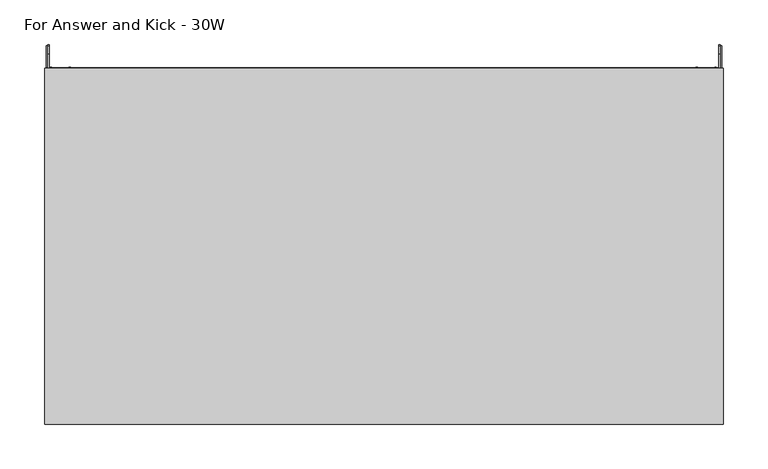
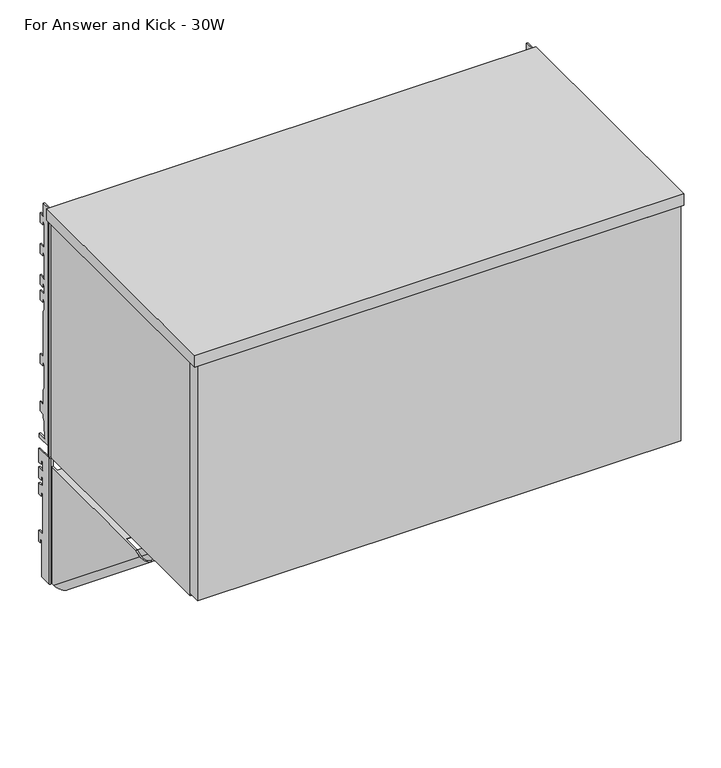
"""IFC4 building model written with IfcOpenShell, lengths in millimetres: furniture geometry, Steelcase - Universal Storage - In the Case Bin - Flat Front : For Answer and Kick - 30W."""

from ifc_helpers import new_model, si_unit, point, frame, frame_2d, origin, place, context, project, spatial, polyline, circle_curve, ellipse_curve, trimmed, segment, composite_curve, outline, extrude, faceted_brep, source, transform, mapped, element, save
from ifc_brep_helpers import plane_surface, cylinder_surface, revolved_surface, advanced_brep


def for_answer_and_kick_30w_72016e20(model_context):
    return source(origin(), model_context, "Body", "SolidModel", [
        advanced_brep(
        [(4.0894, 24.9864881, 1247.9655), (4.0894, 1.1327479, 1247.9655), (4.0894, 1.1203386, 1040.9809), (4.0894, 17.3410881, 1040.9809), (4.0894, 17.3410881, 1101.1280822), (4.0894, 21.4050888, 1101.1280822), (4.0894, 21.4050888, 1094.7781064), (4.0894, 24.9864881, 1094.7781064), (4.0894, 24.9864881, 1113.0407271), (4.0894, 14.7756879, 1113.0407271), (4.0894, 14.7756879, 1179.6141345), (4.0894, 18.8396885, 1179.6141345), (4.0894, 18.8396885, 1173.264086), (4.0894, 24.9864881, 1173.264086), (4.0894, 24.9864881, 1191.5267068), (4.0894, 14.7756879, 1191.5267068), (4.0894, 14.7756879, 1205.7761277), (4.0894, 18.8396885, 1205.7761277), (4.0894, 18.8396885, 1199.4260793), (4.0894, 24.9864881, 1199.4260793), (4.0894, 24.9864881, 1217.6887), (4.0894, 14.7756879, 1217.6887), (4.0894, 14.7756879, 1231.9381209), (4.0894, 18.8396885, 1231.9381209), (4.0894, 18.8396885, 1225.5880725), (4.0894, 24.9864881, 1225.5880725), (2.1844, 24.9864881, 1247.9655), (2.1844, 24.9864881, 1225.5880725), (2.1844, 18.8396885, 1225.5880725), (2.1844, 18.8396885, 1231.9381209), (2.1844, 14.7756879, 1231.9381209), (2.1844, 14.7756879, 1217.6887), (2.1844, 24.9864881, 1217.6887), (2.1844, 24.9864881, 1199.4260793), (2.1844, 18.8396885, 1199.4260793), (2.1844, 18.8396885, 1205.7761277), (2.1844, 14.7756879, 1205.7761277), (2.1844, 14.7756879, 1191.5267068), (2.1844, 24.9864881, 1191.5267068), (2.1844, 24.9864881, 1173.264086), (2.1844, 18.8396885, 1173.264086), (2.1844, 18.8396885, 1179.6141345), (2.1844, 14.7756879, 1179.6141345), (2.1844, 14.7756879, 1113.0407271), (2.1844, 24.9864881, 1113.0407271), (2.1844, 24.9864881, 1094.7781064), (2.1844, 21.4050888, 1094.7781064), (2.1844, 21.4050888, 1101.1280822), (2.1844, 17.3410881, 1101.1280822), (2.1844, 17.3410881, 1040.9809), (2.1844, -0.7757522, 1040.9809), (2.1844, -0.7757522, 1247.9655), (4.4891598, -3.080512, 1247.9655), (8.1026, -3.080512, 1247.9655), (8.1026, -1.7838863, 1247.9655), (7.4942256, -1.175512, 1247.9655), (6.3852506, -1.175512, 1247.9655), (6.3852506, -1.175512, 1040.9809), (7.4942256, -1.175512, 1040.9809), (8.1026, -1.7838863, 1040.9809), (8.1026, -3.080512, 1040.9809), (4.4891598, -3.080512, 1040.9809)],
        [
            (0, 1),
            (1, 2),
            (2, 3),
            (3, 4),
            (4, 5),
            (5, 6),
            (6, 7),
            (7, 8),
            (8, 9),
            (9, 10),
            (10, 11),
            (11, 12),
            (12, 13),
            (13, 14),
            (14, 15),
            (15, 16),
            (16, 17),
            (17, 18),
            (18, 19),
            (19, 20),
            (20, 21),
            (21, 22),
            (22, 23),
            (23, 24),
            (24, 25),
            (25, 0),
            (26, 27),
            (27, 28),
            (28, 29),
            (29, 30),
            (30, 31),
            (31, 32),
            (32, 33),
            (33, 34),
            (34, 35),
            (35, 36),
            (36, 37),
            (37, 38),
            (38, 39),
            (39, 40),
            (40, 41),
            (41, 42),
            (42, 43),
            (43, 44),
            (44, 45),
            (45, 46),
            (46, 47),
            (47, 48),
            (48, 49),
            (49, 50),
            (50, 51),
            (51, 26),
            (0, 26),
            (51, 52, circle_curve(frame((4.4891598, -0.7757522, 1247.9655), z_axis=(0.0, 0.0, 1.0), x_axis=(1.0, 0.0, 0.0)), 2.3047598)),
            (52, 53),
            (53, 54),
            (54, 55, circle_curve(frame((7.4942256, -1.7838863, 1247.9655), z_axis=(0.0, 0.0, 1.0), x_axis=(1.0, 0.0, 0.0)), 0.6083744)),
            (55, 56),
            (56, 1, circle_curve(frame((6.3852506, 1.1203386, 1247.9655), z_axis=(0.0, 0.0, -1.0), x_axis=(1.0, 0.0, 0.0)), 2.2958506)),
            (2, 57, circle_curve(frame((6.3852506, 1.1203386, 1040.9809), z_axis=(0.0, 0.0, 1.0), x_axis=(1.0, 0.0, 0.0)), 2.2958506)),
            (57, 58),
            (58, 59, circle_curve(frame((7.4942256, -1.7838863, 1040.9809), z_axis=(0.0, 0.0, -1.0), x_axis=(1.0, 0.0, 0.0)), 0.6083744)),
            (59, 60),
            (60, 61),
            (61, 50, circle_curve(frame((4.4891598, -0.7757522, 1040.9809), z_axis=(0.0, 0.0, -1.0), x_axis=(1.0, 0.0, 0.0)), 2.3047598)),
            (49, 3),
            (48, 4),
            (47, 5),
            (46, 6),
            (45, 7),
            (44, 8),
            (43, 9),
            (42, 10),
            (41, 11),
            (40, 12),
            (39, 13),
            (38, 14),
            (37, 15),
            (36, 16),
            (35, 17),
            (34, 18),
            (33, 19),
            (32, 20),
            (31, 21),
            (30, 22),
            (29, 23),
            (28, 24),
            (27, 25),
            (61, 52),
            (60, 53),
            (59, 54),
            (58, 55),
            (57, 56),
        ],
        [
            plane_surface(frame((4.0894, 1.241405, 1247.9655), z_axis=(1.0, 0.0, 0.0), x_axis=(0.0, -1.0, 0.0))),
            plane_surface(frame((2.1844, 1.241405, 1247.9655), z_axis=(-1.0, 0.0, 0.0), x_axis=(0.0, 1.0, 0.0))),
            plane_surface(frame((4.0894, 24.9864881, 1247.9655), z_axis=(0.0, 0.0, 1.0), x_axis=(-1.0, 0.0, 0.0))),
            plane_surface(frame((4.0894, 1.1327479, 1040.9809), z_axis=(0.0, 0.0, -1.0), x_axis=(-1.0, 0.0, 0.0))),
            plane_surface(frame((4.0894, 17.3410881, 1040.9809), z_axis=(0.0, 1.0, 0.0), x_axis=(-1.0, 0.0, 0.0))),
            plane_surface(frame((4.0894, 17.3410881, 1101.1280822), z_axis=(0.0, 0.0, -1.0), x_axis=(-1.0, 0.0, 0.0))),
            plane_surface(frame((4.0894, 21.4050888, 1101.1280822), z_axis=(0.0, -1.0, 0.0), x_axis=(-1.0, 0.0, 0.0))),
            plane_surface(frame((4.0894, 21.4050888, 1094.7781064), z_axis=(0.0, 0.0, -1.0), x_axis=(-1.0, 0.0, 0.0))),
            plane_surface(frame((4.0894, 24.9864881, 1094.7781064), z_axis=(0.0, 1.0, 0.0), x_axis=(-1.0, 0.0, 0.0))),
            plane_surface(frame((4.0894, 24.9864881, 1113.0407271), z_axis=(0.0, 0.0, 1.0), x_axis=(-1.0, 0.0, 0.0))),
            plane_surface(frame((4.0894, 14.7756879, 1113.0407271), z_axis=(0.0, 1.0, 0.0), x_axis=(-1.0, 0.0, 0.0))),
            plane_surface(frame((4.0894, 14.7756879, 1179.6141345), z_axis=(0.0, 0.0, -1.0), x_axis=(-1.0, 0.0, 0.0))),
            plane_surface(frame((4.0894, 18.8396885, 1179.6141345), z_axis=(0.0, -1.0, 0.0), x_axis=(-1.0, 0.0, 0.0))),
            plane_surface(frame((4.0894, 18.8396885, 1173.264086), z_axis=(0.0, 0.0, -1.0), x_axis=(-1.0, 0.0, 0.0))),
            plane_surface(frame((4.0894, 24.9864881, 1173.264086), z_axis=(0.0, 1.0, 0.0), x_axis=(-1.0, 0.0, 0.0))),
            plane_surface(frame((4.0894, 24.9864881, 1191.5267068), z_axis=(0.0, 0.0, 1.0), x_axis=(-1.0, 0.0, 0.0))),
            plane_surface(frame((4.0894, 14.7756879, 1191.5267068), z_axis=(0.0, 1.0, 0.0), x_axis=(-1.0, 0.0, 0.0))),
            plane_surface(frame((4.0894, 14.7756879, 1205.7761277), z_axis=(0.0, 0.0, -1.0), x_axis=(-1.0, 0.0, 0.0))),
            plane_surface(frame((4.0894, 18.8396885, 1205.7761277), z_axis=(0.0, -1.0, 0.0), x_axis=(-1.0, 0.0, 0.0))),
            plane_surface(frame((4.0894, 18.8396885, 1199.4260793), z_axis=(0.0, 0.0, -1.0), x_axis=(-1.0, 0.0, 0.0))),
            plane_surface(frame((4.0894, 24.9864881, 1199.4260793), z_axis=(0.0, 1.0, 0.0), x_axis=(-1.0, 0.0, 0.0))),
            plane_surface(frame((4.0894, 24.9864881, 1217.6887), z_axis=(0.0, 0.0, 1.0), x_axis=(-1.0, 0.0, 0.0))),
            plane_surface(frame((4.0894, 14.7756879, 1217.6887), z_axis=(0.0, 1.0, 0.0), x_axis=(-1.0, 0.0, 0.0))),
            plane_surface(frame((4.0894, 14.7756879, 1231.9381209), z_axis=(0.0, 0.0, -1.0), x_axis=(-1.0, 0.0, 0.0))),
            plane_surface(frame((4.0894, 18.8396885, 1231.9381209), z_axis=(0.0, -1.0, 0.0), x_axis=(-1.0, 0.0, 0.0))),
            plane_surface(frame((4.0894, 18.8396885, 1225.5880725), z_axis=(0.0, 0.0, -1.0), x_axis=(-1.0, 0.0, 0.0))),
            plane_surface(frame((4.0894, 24.9864881, 1225.5880725), z_axis=(0.0, 1.0, 0.0), x_axis=(-1.0, 0.0, 0.0))),
            cylinder_surface(frame((4.4891598, -0.7757522, 1040.9809), z_axis=(0.0, 0.0, 1.0), x_axis=(1.0, 0.0, 0.0)), 2.3047598),
            plane_surface(frame((4.4891598, -3.080512, 1247.9655), z_axis=(0.0, -1.0, 0.0), x_axis=(0.0, 0.0, -1.0))),
            plane_surface(frame((8.1026, -3.080512, 1247.9655), z_axis=(1.0, 0.0, 0.0), x_axis=(0.0, 0.0, -1.0))),
            cylinder_surface(frame((7.4942256, -1.7838863, 1040.9809), z_axis=(0.0, 0.0, 1.0), x_axis=(1.0, 0.0, 0.0)), 0.6083744),
            plane_surface(frame((7.4942256, -1.175512, 1247.9655), z_axis=(0.0, 1.0, 0.0), x_axis=(0.0, 0.0, -1.0))),
            revolved_surface(polyline([(8.6811012, 1.1203386, 1040.9809), (8.6811012, 1.1203386, 1247.9655)]), (6.3852506, 1.1203386, 1040.9809), (0.0, 0.0, -1.0)),
        ],
        [
            (0, [[1, 2, 3, 4, 5, 6, 7, 8, 9, 10, 11, 12, 13, 14, 15, 16, 17, 18, 19, 20, 21, 22, 23, 24, 25, 26]]),
            (1, [[27, 28, 29, 30, 31, 32, 33, 34, 35, 36, 37, 38, 39, 40, 41, 42, 43, 44, 45, 46, 47, 48, 49, 50, 51, 52]]),
            (2, [[-1, 53, -52, 54, 55, 56, 57, 58, 59]]),
            (3, [[-3, 60, 61, 62, 63, 64, 65, -50, 66]]),
            (4, [[-4, -66, -49, 67]]),
            (5, [[-5, -67, -48, 68]]),
            (6, [[-6, -68, -47, 69]]),
            (7, [[-7, -69, -46, 70]]),
            (8, [[-8, -70, -45, 71]]),
            (9, [[-9, -71, -44, 72]]),
            (10, [[-10, -72, -43, 73]]),
            (11, [[-11, -73, -42, 74]]),
            (12, [[-12, -74, -41, 75]]),
            (13, [[-13, -75, -40, 76]]),
            (14, [[-14, -76, -39, 77]]),
            (15, [[-15, -77, -38, 78]]),
            (16, [[-16, -78, -37, 79]]),
            (17, [[-17, -79, -36, 80]]),
            (18, [[-18, -80, -35, 81]]),
            (19, [[-19, -81, -34, 82]]),
            (20, [[-20, -82, -33, 83]]),
            (21, [[-21, -83, -32, 84]]),
            (22, [[-22, -84, -31, 85]]),
            (23, [[-23, -85, -30, 86]]),
            (24, [[-24, -86, -29, 87]]),
            (25, [[-25, -87, -28, 88]]),
            (26, [[-26, -88, -27, -53]]),
            (27, [[-54, -51, -65, 89]]),
            (28, [[-55, -89, -64, 90]]),
            (29, [[-56, -90, -63, 91]]),
            (30, [[-57, -91, -62, 92]]),
            (31, [[-58, -92, -61, 93]]),
            (32, [[-59, -93, -60, -2]]),
        ],
    ),
        advanced_brep(
        [(757.9106, 24.9864881, 1247.9655), (757.9106, 24.9864881, 1225.5880725), (757.9106, 18.8396885, 1225.5880725), (757.9106, 18.8396885, 1231.9381209), (757.9106, 14.7756879, 1231.9381209), (757.9106, 14.7756879, 1217.6887), (757.9106, 24.9864881, 1217.6887), (757.9106, 24.9864881, 1199.4260793), (757.9106, 18.8396885, 1199.4260793), (757.9106, 18.8396885, 1205.7761277), (757.9106, 14.7756879, 1205.7761277), (757.9106, 14.7756879, 1191.5267068), (757.9106, 24.9864881, 1191.5267068), (757.9106, 24.9864881, 1173.264086), (757.9106, 18.8396885, 1173.264086), (757.9106, 18.8396885, 1179.6141345), (757.9106, 14.7756879, 1179.6141345), (757.9106, 14.7756879, 1113.0407271), (757.9106, 24.9864881, 1113.0407271), (757.9106, 24.9864881, 1094.7781064), (757.9106, 21.4050888, 1094.7781064), (757.9106, 21.4050888, 1101.1280822), (757.9106, 17.3410881, 1101.1280822), (757.9106, 17.3410881, 1040.9809), (757.9106, 1.1327479, 1040.9809), (757.9106, 1.1203386, 1247.9655), (759.8156, -0.7757522, 1247.9655), (759.8156, -0.7757522, 1040.9809), (759.8156, 17.3410881, 1040.9809), (759.8156, 17.3410881, 1101.1280822), (759.8156, 21.4050888, 1101.1280822), (759.8156, 21.4050888, 1094.7781064), (759.8156, 24.9864881, 1094.7781064), (759.8156, 24.9864881, 1113.0407271), (759.8156, 14.7756879, 1113.0407271), (759.8156, 14.7756879, 1179.6141345), (759.8156, 18.8396885, 1179.6141345), (759.8156, 18.8396885, 1173.264086), (759.8156, 24.9864881, 1173.264086), (759.8156, 24.9864881, 1191.5267068), (759.8156, 14.7756879, 1191.5267068), (759.8156, 14.7756879, 1205.7761277), (759.8156, 18.8396885, 1205.7761277), (759.8156, 18.8396885, 1199.4260793), (759.8156, 24.9864881, 1199.4260793), (759.8156, 24.9864881, 1217.6887), (759.8156, 14.7756879, 1217.6887), (759.8156, 14.7756879, 1231.9381209), (759.8156, 18.8396885, 1231.9381209), (759.8156, 18.8396885, 1225.5880725), (759.8156, 24.9864881, 1225.5880725), (759.8156, 24.9864881, 1247.9655), (757.5108402, -3.080512, 1040.9809), (754.1006, -3.080512, 1040.9809), (754.1006, -1.7838863, 1040.9809), (754.7089744, -1.175512, 1040.9809), (755.6147494, -1.175512, 1040.9809), (755.6147494, -1.175512, 1247.9655), (754.7089744, -1.175512, 1247.9655), (754.1006, -1.7838863, 1247.9655), (754.1006, -3.080512, 1247.9655), (757.5108402, -3.080512, 1247.9655)],
        [
            (0, 1),
            (1, 2),
            (2, 3),
            (3, 4),
            (4, 5),
            (5, 6),
            (6, 7),
            (7, 8),
            (8, 9),
            (9, 10),
            (10, 11),
            (11, 12),
            (12, 13),
            (13, 14),
            (14, 15),
            (15, 16),
            (16, 17),
            (17, 18),
            (18, 19),
            (19, 20),
            (20, 21),
            (21, 22),
            (22, 23),
            (23, 24),
            (24, 25),
            (25, 0),
            (26, 27),
            (27, 28),
            (28, 29),
            (29, 30),
            (30, 31),
            (31, 32),
            (32, 33),
            (33, 34),
            (34, 35),
            (35, 36),
            (36, 37),
            (37, 38),
            (38, 39),
            (39, 40),
            (40, 41),
            (41, 42),
            (42, 43),
            (43, 44),
            (44, 45),
            (45, 46),
            (46, 47),
            (47, 48),
            (48, 49),
            (49, 50),
            (50, 51),
            (51, 26),
            (0, 51),
            (50, 1),
            (49, 2),
            (48, 3),
            (47, 4),
            (46, 5),
            (45, 6),
            (44, 7),
            (43, 8),
            (42, 9),
            (41, 10),
            (40, 11),
            (39, 12),
            (38, 13),
            (37, 14),
            (36, 15),
            (35, 16),
            (34, 17),
            (33, 18),
            (32, 19),
            (31, 20),
            (30, 21),
            (29, 22),
            (28, 23),
            (27, 52, circle_curve(frame((757.5108402, -0.7757522, 1040.9809), z_axis=(0.0, 0.0, -1.0), x_axis=(0.0, 1.0, 0.0)), 2.3047598)),
            (52, 53),
            (53, 54),
            (54, 55, circle_curve(frame((754.7089744, -1.7838863, 1040.9809), z_axis=(0.0, 0.0, -1.0), x_axis=(0.0, 1.0, 0.0)), 0.6083744)),
            (55, 56),
            (56, 24, circle_curve(frame((755.6147494, 1.1203386, 1040.9809), z_axis=(0.0, 0.0, 1.0), x_axis=(0.0, 1.0, 0.0)), 2.2958506)),
            (25, 57, circle_curve(frame((755.6147494, 1.1203386, 1247.9655), z_axis=(0.0, 0.0, -1.0), x_axis=(0.0, 1.0, 0.0)), 2.2958506)),
            (57, 58),
            (58, 59, circle_curve(frame((754.7089744, -1.7838863, 1247.9655), z_axis=(0.0, 0.0, 1.0), x_axis=(0.0, 1.0, 0.0)), 0.6083744)),
            (59, 60),
            (60, 61),
            (61, 26, circle_curve(frame((757.5108402, -0.7757522, 1247.9655), z_axis=(0.0, 0.0, 1.0), x_axis=(0.0, 1.0, 0.0)), 2.3047598)),
            (56, 57),
            (55, 58),
            (54, 59),
            (53, 60),
            (52, 61),
        ],
        [
            plane_surface(frame((757.9106, 24.9864881, 1247.9655), z_axis=(-1.0, 0.0, 0.0), x_axis=(0.0, 0.0, -1.0))),
            plane_surface(frame((759.8156, 24.9864881, 1247.9655), z_axis=(1.0, 0.0, 0.0), x_axis=(0.0, 0.0, 1.0))),
            plane_surface(frame((757.9106, 24.9864881, 1247.9655), z_axis=(0.0, 1.0, 0.0), x_axis=(1.0, 0.0, 0.0))),
            plane_surface(frame((757.9106, 24.9864881, 1225.5880725), z_axis=(0.0, 0.0, -1.0), x_axis=(1.0, 0.0, 0.0))),
            plane_surface(frame((757.9106, 18.8396885, 1225.5880725), z_axis=(0.0, -1.0, 0.0), x_axis=(1.0, 0.0, 0.0))),
            plane_surface(frame((757.9106, 18.8396885, 1231.9381209), z_axis=(0.0, 0.0, -1.0), x_axis=(1.0, 0.0, 0.0))),
            plane_surface(frame((757.9106, 14.7756879, 1231.9381209), z_axis=(0.0, 1.0, 0.0), x_axis=(1.0, 0.0, 0.0))),
            plane_surface(frame((757.9106, 14.7756879, 1217.6887), z_axis=(0.0, 0.0, 1.0), x_axis=(1.0, 0.0, 0.0))),
            plane_surface(frame((757.9106, 24.9864881, 1217.6887), z_axis=(0.0, 1.0, 0.0), x_axis=(1.0, 0.0, 0.0))),
            plane_surface(frame((757.9106, 24.9864881, 1199.4260793), z_axis=(0.0, 0.0, -1.0), x_axis=(1.0, 0.0, 0.0))),
            plane_surface(frame((757.9106, 18.8396885, 1199.4260793), z_axis=(0.0, -1.0, 0.0), x_axis=(1.0, 0.0, 0.0))),
            plane_surface(frame((757.9106, 18.8396885, 1205.7761277), z_axis=(0.0, 0.0, -1.0), x_axis=(1.0, 0.0, 0.0))),
            plane_surface(frame((757.9106, 14.7756879, 1205.7761277), z_axis=(0.0, 1.0, 0.0), x_axis=(1.0, 0.0, 0.0))),
            plane_surface(frame((757.9106, 14.7756879, 1191.5267068), z_axis=(0.0, 0.0, 1.0), x_axis=(1.0, 0.0, 0.0))),
            plane_surface(frame((757.9106, 24.9864881, 1191.5267068), z_axis=(0.0, 1.0, 0.0), x_axis=(1.0, 0.0, 0.0))),
            plane_surface(frame((757.9106, 24.9864881, 1173.264086), z_axis=(0.0, 0.0, -1.0), x_axis=(1.0, 0.0, 0.0))),
            plane_surface(frame((757.9106, 18.8396885, 1173.264086), z_axis=(0.0, -1.0, 0.0), x_axis=(1.0, 0.0, 0.0))),
            plane_surface(frame((757.9106, 18.8396885, 1179.6141345), z_axis=(0.0, 0.0, -1.0), x_axis=(1.0, 0.0, 0.0))),
            plane_surface(frame((757.9106, 14.7756879, 1179.6141345), z_axis=(0.0, 1.0, 0.0), x_axis=(1.0, 0.0, 0.0))),
            plane_surface(frame((757.9106, 14.7756879, 1113.0407271), z_axis=(0.0, 0.0, 1.0), x_axis=(1.0, 0.0, 0.0))),
            plane_surface(frame((757.9106, 24.9864881, 1113.0407271), z_axis=(0.0, 1.0, 0.0), x_axis=(1.0, 0.0, 0.0))),
            plane_surface(frame((757.9106, 24.9864881, 1094.7781064), z_axis=(0.0, 0.0, -1.0), x_axis=(1.0, 0.0, 0.0))),
            plane_surface(frame((757.9106, 21.4050888, 1094.7781064), z_axis=(0.0, -1.0, 0.0), x_axis=(1.0, 0.0, 0.0))),
            plane_surface(frame((757.9106, 21.4050888, 1101.1280822), z_axis=(0.0, 0.0, -1.0), x_axis=(1.0, 0.0, 0.0))),
            plane_surface(frame((757.9106, 17.3410881, 1101.1280822), z_axis=(0.0, 1.0, 0.0), x_axis=(1.0, 0.0, 0.0))),
            plane_surface(frame((757.9106, 17.3410881, 1040.9809), z_axis=(0.0, 0.0, -1.0), x_axis=(1.0, 0.0, 0.0))),
            plane_surface(frame((757.9106, 1.1327479, 1247.9655), z_axis=(0.0, 0.0, 1.0), x_axis=(1.0, 0.0, 0.0))),
            revolved_surface(polyline([(755.6147494, 3.4161892, 1040.9809), (755.6147494, 3.4161892, 1247.9655)]), (755.6147494, 1.1203386, 1040.9809), (0.0, 0.0, -1.0)),
            plane_surface(frame((755.6147494, -1.175512, 1247.9655), z_axis=(0.0, 1.0, 0.0), x_axis=(0.0, 0.0, -1.0))),
            cylinder_surface(frame((754.7089744, -1.7838863, 1040.9809), z_axis=(0.0, 0.0, 1.0), x_axis=(0.0, 1.0, 0.0)), 0.6083744),
            plane_surface(frame((754.1006, -1.7838863, 1247.9655), z_axis=(-1.0, 0.0, 0.0), x_axis=(0.0, 0.0, -1.0))),
            plane_surface(frame((754.1006, -3.080512, 1247.9655), z_axis=(8.659777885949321e-12, -1.0, 0.0), x_axis=(0.0, 0.0, -1.0))),
            cylinder_surface(frame((757.5108402, -0.7757522, 1040.9809), z_axis=(0.0, 0.0, 1.0), x_axis=(0.0, 1.0, 0.0)), 2.3047598),
        ],
        [
            (0, [[1, 2, 3, 4, 5, 6, 7, 8, 9, 10, 11, 12, 13, 14, 15, 16, 17, 18, 19, 20, 21, 22, 23, 24, 25, 26]]),
            (1, [[27, 28, 29, 30, 31, 32, 33, 34, 35, 36, 37, 38, 39, 40, 41, 42, 43, 44, 45, 46, 47, 48, 49, 50, 51, 52]]),
            (2, [[-1, 53, -51, 54]]),
            (3, [[-2, -54, -50, 55]]),
            (4, [[-3, -55, -49, 56]]),
            (5, [[-4, -56, -48, 57]]),
            (6, [[-5, -57, -47, 58]]),
            (7, [[-6, -58, -46, 59]]),
            (8, [[-7, -59, -45, 60]]),
            (9, [[-8, -60, -44, 61]]),
            (10, [[-9, -61, -43, 62]]),
            (11, [[-10, -62, -42, 63]]),
            (12, [[-11, -63, -41, 64]]),
            (13, [[-12, -64, -40, 65]]),
            (14, [[-13, -65, -39, 66]]),
            (15, [[-14, -66, -38, 67]]),
            (16, [[-15, -67, -37, 68]]),
            (17, [[-16, -68, -36, 69]]),
            (18, [[-17, -69, -35, 70]]),
            (19, [[-18, -70, -34, 71]]),
            (20, [[-19, -71, -33, 72]]),
            (21, [[-20, -72, -32, 73]]),
            (22, [[-21, -73, -31, 74]]),
            (23, [[-22, -74, -30, 75]]),
            (24, [[-23, -75, -29, 76]]),
            (25, [[-24, -76, -28, 77, 78, 79, 80, 81, 82]]),
            (26, [[-26, 83, 84, 85, 86, 87, 88, -52, -53]]),
            (27, [[-83, -25, -82, 89]]),
            (28, [[-84, -89, -81, 90]]),
            (29, [[-85, -90, -80, 91]]),
            (30, [[-86, -91, -79, 92]]),
            (31, [[-87, -92, -78, 93]]),
            (32, [[-88, -93, -77, -27]]),
        ],
    ),
        advanced_brep(
        [(732.9424, -230.0833372, 1233.8431), (732.9424, 1.1327479, 1046.6079738), (730.8342, 1.1327479, 1046.6079738), (730.8342, -230.0833372, 1233.8431), (730.8342, 1.1327479, 1040.9809), (730.8342, -7.7654502, 1040.9809), (730.8342, -240.6555763, 1229.5716381), (754.1006, -7.7654502, 1040.9809), (754.1006, -240.6555763, 1229.5716381), (754.1006, 1.1327479, 1040.9809), (754.1006, 1.1327479, 1046.6079738), (754.1006, -3.080512, 1050.019805), (754.1006, -3.080512, 1233.8431), (754.1006, -230.0833372, 1233.8431), (751.9924009, 1.1327479, 1046.6079738), (751.9924009, -3.080512, 1050.019805), (751.9924009, -7.7654502, 1040.9809), (751.9924009, -240.6555763, 1229.5716381), (751.9924009, -230.0833372, 1233.8431), (751.9924009, -200.311512, 1233.8431), (751.9924009, -200.311512, 1233.0049163), (751.9924009, -14.0787123, 1233.0049163), (751.9924009, -14.0787123, 1233.8431), (751.9924009, -3.080512, 1233.8431), (751.9924009, 1.1327479, 1040.9809), (732.9424, -7.7654502, 1040.9809), (732.9424, -240.6555763, 1229.5716381), (732.9424, 1.1327479, 1040.9809), (723.0617978, -200.311512, 1233.8431), (723.0617978, -200.311512, 1252.2581016), (722.2236, -200.311512, 1252.2581016), (722.2236, -200.311512, 1233.0049163), (722.2236, -82.5825138, 1252.2581016), (723.0617978, -82.5825138, 1252.2581016), (723.0617978, -82.5825138, 1233.8431), (722.2236, -82.5825138, 1233.8431), (722.2236, -14.0787123, 1233.8431), (722.2236, -14.0787123, 1233.0049163)],
        [
            (0, 1),
            (1, 2),
            (2, 3),
            (3, 0),
            (2, 4),
            (4, 5),
            (5, 6),
            (6, 3),
            (5, 7, ellipse_curve(frame((742.4674, -7.7654502, 1040.9809), z_axis=(0.0, 0.0, 1.0), x_axis=(0.0, -1.0, 0.0)), 18.4853359, 11.6332)),
            (7, 8),
            (8, 6, ellipse_curve(frame((742.4674, -240.6555763, 1229.5716381), z_axis=(0.0, 0.374606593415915, -0.9271838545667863), x_axis=(0.0, -0.9271838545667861, -0.3746065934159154)), 13.3008659, 11.6332)),
            (7, 9),
            (9, 10),
            (10, 11),
            (11, 12),
            (12, 13),
            (13, 8),
            (10, 14),
            (14, 15),
            (15, 11),
            (16, 17),
            (17, 18),
            (18, 19),
            (19, 20),
            (20, 21),
            (21, 22),
            (22, 23),
            (23, 15),
            (14, 24),
            (24, 16),
            (16, 25, ellipse_curve(frame((742.4674005, -7.7654502, 1040.9809), z_axis=(0.0, 0.0, -1.0), x_axis=(0.0, 1.0, 0.0)), 15.135374, 9.5250005)),
            (25, 26),
            (26, 17, ellipse_curve(frame((742.4674005, -240.6555763, 1229.5716381), z_axis=(0.0, -0.374606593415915, 0.9271838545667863), x_axis=(0.0, 0.9271838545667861, 0.3746065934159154)), 10.8904475, 9.5250005)),
            (0, 26),
            (25, 27),
            (27, 1),
            (13, 18),
            (24, 9),
            (4, 27),
            (28, 29),
            (29, 30),
            (30, 31),
            (31, 20),
            (19, 28),
            (32, 33),
            (33, 34),
            (34, 35),
            (35, 32),
            (35, 36),
            (36, 37),
            (37, 31),
            (30, 32),
            (28, 34),
            (33, 29),
            (36, 22),
            (21, 37),
            (12, 23),
        ],
        [
            plane_surface(frame((732.9424, -241.2702093, 1242.902052), z_axis=(0.0, 0.6293204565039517, 0.7771459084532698), x_axis=(0.0, 0.7771459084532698, -0.6293204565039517))),
            plane_surface(frame((730.8342, -241.2702093, 1242.902052), z_axis=(-1.0000000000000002, 0.0, 0.0), x_axis=(0.0, 0.7771459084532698, -0.6293204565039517))),
            cylinder_surface(frame((742.4674, 5.728998, 1030.0533094), z_axis=(0.0, -0.7771459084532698, 0.6293204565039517), x_axis=(0.0, 0.6293204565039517, 0.7771459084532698)), 11.6332),
            plane_surface(frame((754.1006, -247.5463438, 1235.1516726), z_axis=(1.0000000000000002, 0.0, 0.0), x_axis=(0.0, 0.7771459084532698, -0.6293204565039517))),
            plane_surface(frame((754.1006, -241.2702093, 1242.902052), z_axis=(0.0, 0.6293204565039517, 0.7771459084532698), x_axis=(0.0, 0.7771459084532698, -0.6293204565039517))),
            plane_surface(frame((751.9924009, -241.2702093, 1242.902052), z_axis=(-1.0000000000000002, 0.0, 0.0), x_axis=(0.0, 0.7771459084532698, -0.6293204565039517))),
            revolved_surface(polyline([(742.4674005, 7.3699238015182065, 1040.980900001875), (742.4674005, -238.76446812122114, 1240.2966349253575)]), (742.4674005, 5.728998, 1030.0533094), (0.0, 0.7771459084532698, -0.6293204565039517)),
            plane_surface(frame((732.9424, -247.5463438, 1235.1516726), z_axis=(1.0000000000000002, 0.0, 0.0), x_axis=(0.0, 0.7771459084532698, -0.6293204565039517))),
            plane_surface(frame((762.0, -257.2236519, 1222.8777011), z_axis=(0.0, -0.374606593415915, 0.9271838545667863), x_axis=(-1.0, 0.0, 0.0))),
            plane_surface(frame((762.0, 1.1327479, 1040.9809), z_axis=(0.0, 0.0, -1.0), x_axis=(-1.0, 0.0, 0.0))),
            plane_surface(frame((762.0, 1.1327479, 1053.6809), z_axis=(0.0, 1.0, 0.0), x_axis=(-1.0, 0.0, 0.0))),
            plane_surface(frame((722.2236, -200.311512, 1252.2581016), z_axis=(0.0, -1.0, 0.0), x_axis=(0.0, 0.0, -1.0))),
            plane_surface(frame((722.2236, -82.5825138, 1252.2581016), z_axis=(0.0, 1.0, 0.0), x_axis=(0.0, 0.0, 1.0))),
            plane_surface(frame((722.2236, -200.311512, 1252.2581016), z_axis=(-1.0, 0.0, 0.0), x_axis=(0.0, 1.0, 0.0))),
            plane_surface(frame((723.0617978, -200.311512, 1233.8431), z_axis=(1.0, 0.0, 0.0), x_axis=(0.0, 1.0, 0.0))),
            plane_surface(frame((723.0617978, -200.311512, 1252.2581016), z_axis=(0.0, 0.0, 1.0), x_axis=(0.0, 1.0, 0.0))),
            plane_surface(frame((722.2236, -14.0787123, 1233.8431), z_axis=(0.0, 1.0, 0.0), x_axis=(0.0, 0.0, 1.0))),
            plane_surface(frame((722.2236, -200.311512, 1233.0049163), z_axis=(0.0, 0.0, -1.0), x_axis=(0.0, 1.0, 0.0))),
            plane_surface(frame((754.1006, -200.311512, 1233.8431), z_axis=(0.0, 0.0, 1.0), x_axis=(0.0, 1.0, 0.0))),
            plane_surface(frame((754.1006, -3.080512, 1050.019805), z_axis=(0.0, 1.0, 0.0), x_axis=(-1.0, 0.0, 0.0))),
        ],
        [
            (0, [[1, 2, 3, 4]]),
            (1, [[-3, 5, 6, 7, 8]]),
            (2, [[-7, 9, 10, 11]]),
            (3, [[-10, 12, 13, 14, 15, 16, 17]]),
            (4, [[18, 19, 20, -14]]),
            (5, [[21, 22, 23, 24, 25, 26, 27, 28, -19, 29, 30]]),
            (6, [[-21, 31, 32, 33]]),
            (7, [[-1, 34, -32, 35, 36]]),
            (8, [[-4, -8, -11, -17, 37, -22, -33, -34]]),
            (9, [[38, -12, -9, -6, 39, -35, -31, -30]]),
            (10, [[-38, -29, -18, -13]]),
            (10, [[-39, -5, -2, -36]]),
            (11, [[40, 41, 42, 43, -24, 44]]),
            (12, [[45, 46, 47, 48]]),
            (13, [[-48, 49, 50, 51, -42, 52]]),
            (14, [[-40, 53, -46, 54]]),
            (15, [[-41, -54, -45, -52]]),
            (16, [[-50, 55, -26, 56]]),
            (17, [[-51, -56, -25, -43]]),
            (18, [[57, -27, -55, -49, -47, -53, -44, -23, -37, -16]]),
            (19, [[-15, -20, -28, -57]]),
        ],
    ),
        advanced_brep(
        [(8.1026, -3.080512, 1050.019805), (8.1026, -3.080512, 1233.8431), (8.1026, -14.0787123, 1233.8431), (8.1026, -14.0787123, 1233.0049163), (8.1026, -200.311512, 1233.0049163), (8.1026, -200.311512, 1233.8431), (8.1026, -230.0833372, 1233.8431), (8.1026, -240.6555763, 1229.5716381), (8.1026, -7.7654502, 1040.9809), (8.1026, 1.1327479, 1040.9809), (8.1026, 1.1327479, 1046.6079738), (5.9944, -3.080512, 1233.8431), (5.9944, -3.080512, 1050.019805), (5.9944, 1.1327479, 1046.6079738), (5.9944, 1.1327479, 1040.9809), (5.9944, -7.7654502, 1040.9809), (5.9944, -240.6555763, 1229.5716381), (5.9944, -230.0833372, 1233.8431), (39.5732022, -200.311512, 1233.8431), (39.5732022, -82.5825138, 1233.8431), (40.4114, -82.5825138, 1233.8431), (40.4114, -14.0787123, 1233.8431), (29.2608, -7.7654502, 1040.9809), (29.2608, -240.6555763, 1229.5716381), (29.2608, 1.1327479, 1040.9809), (29.2608, 1.1327479, 1046.6079738), (29.2608, -230.0833372, 1233.8431), (27.1526009, 1.1327479, 1046.6079738), (27.1526009, -230.0833372, 1233.8431), (27.1526009, 1.1327479, 1040.9809), (27.1526009, -7.7654502, 1040.9809), (27.1526009, -240.6555763, 1229.5716381), (40.4114, -200.311512, 1233.0049163), (40.4114, -200.311512, 1252.2581016), (39.5732022, -200.311512, 1252.2581016), (40.4114, -14.0787123, 1233.0049163), (40.4114, -82.5825138, 1252.2581016), (39.5732022, -82.5825138, 1252.2581016)],
        [
            (0, 1),
            (1, 2),
            (2, 3),
            (3, 4),
            (4, 5),
            (5, 6),
            (6, 7),
            (7, 8),
            (8, 9),
            (9, 10),
            (10, 0),
            (11, 12),
            (12, 13),
            (13, 14),
            (14, 15),
            (15, 16),
            (16, 17),
            (17, 11),
            (17, 6),
            (5, 18),
            (18, 19),
            (19, 20),
            (20, 21),
            (21, 2),
            (1, 11),
            (0, 12),
            (10, 13),
            (15, 22, ellipse_curve(frame((17.6276, -7.7654502, 1040.9809), z_axis=(0.0, 0.0, 1.0), x_axis=(0.0, -1.0, 0.0)), 18.4853359, 11.6332)),
            (22, 23),
            (23, 16, ellipse_curve(frame((17.6276, -240.6555763, 1229.5716381), z_axis=(0.0, 0.374606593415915, -0.9271838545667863), x_axis=(0.0, -0.9271838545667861, -0.3746065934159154)), 13.3008659, 11.6332)),
            (22, 24),
            (24, 25),
            (25, 26),
            (26, 23),
            (25, 27),
            (27, 28),
            (28, 26),
            (27, 29),
            (29, 30),
            (30, 31),
            (31, 28),
            (7, 31, ellipse_curve(frame((17.6276005, -240.6555763, 1229.5716381), z_axis=(0.0, -0.374606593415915, 0.9271838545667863), x_axis=(0.0, 0.9271838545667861, 0.3746065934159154)), 10.8904475, 9.5250005)),
            (30, 8, ellipse_curve(frame((17.6276005, -7.7654502, 1040.9809), z_axis=(0.0, 0.0, -1.0), x_axis=(0.0, 1.0, 0.0)), 15.135374, 9.5250005)),
            (14, 9),
            (29, 24),
            (4, 32),
            (32, 33),
            (33, 34),
            (34, 18),
            (21, 35),
            (35, 3),
            (35, 32),
            (20, 36),
            (36, 33),
            (19, 37),
            (37, 36),
            (37, 34),
        ],
        [
            plane_surface(frame((8.1026, -230.0833372, 1233.8431), z_axis=(1.0, 0.0, 0.0), x_axis=(0.0, -1.0, 0.0))),
            plane_surface(frame((5.9944, -230.0833372, 1233.8431), z_axis=(-1.0, 0.0, 0.0), x_axis=(0.0, 1.0, 0.0))),
            plane_surface(frame((8.1026, -3.080512, 1233.8431), z_axis=(0.0, 0.0, 1.0), x_axis=(-1.0, 0.0, 0.0))),
            plane_surface(frame((8.1026, -3.080512, 1050.019805), z_axis=(0.0, 1.0, 0.0), x_axis=(-1.0, 0.0, 0.0))),
            plane_surface(frame((8.1026, -241.2702093, 1242.902052), z_axis=(0.0, 0.6293204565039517, 0.7771459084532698), x_axis=(0.0, 0.7771459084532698, -0.6293204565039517))),
            cylinder_surface(frame((17.6276, 5.728998, 1030.0533094), z_axis=(0.0, -0.7771459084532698, 0.6293204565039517), x_axis=(1.0, 0.0, 0.0)), 11.6332),
            plane_surface(frame((29.2608, -247.5463438, 1235.1516726), z_axis=(1.0000000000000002, 0.0, 0.0), x_axis=(0.0, 0.7771459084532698, -0.6293204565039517))),
            plane_surface(frame((29.2608, -241.2702093, 1242.902052), z_axis=(0.0, 0.6293204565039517, 0.7771459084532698), x_axis=(0.0, 0.7771459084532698, -0.6293204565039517))),
            plane_surface(frame((27.1526009, -241.2702093, 1242.902052), z_axis=(-1.0000000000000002, 0.0, 0.0), x_axis=(0.0, 0.7771459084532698, -0.6293204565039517))),
            revolved_surface(polyline([(27.152601, 1.375646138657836, 1033.5785848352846), (27.152601, -244.75874578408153, 1232.8943197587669)]), (17.6276005, 5.728998, 1030.0533094), (0.0, 0.7771459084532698, -0.6293204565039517)),
            plane_surface(frame((762.0, -257.2236519, 1222.8777011), z_axis=(0.0, -0.374606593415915, 0.9271838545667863), x_axis=(-1.0, 0.0, 0.0))),
            plane_surface(frame((762.0, 1.1327479, 1040.9809), z_axis=(0.0, 0.0, -1.0), x_axis=(-1.0, 0.0, 0.0))),
            plane_surface(frame((762.0, 1.1327479, 1053.6809), z_axis=(0.0, 1.0, 0.0), x_axis=(-1.0, 0.0, 0.0))),
            plane_surface(frame((10.5986151, -200.311512, 1233.8431), z_axis=(0.0, -1.0, 0.0), x_axis=(-1.0, 0.0, 0.0))),
            plane_surface(frame((10.5986151, -14.0787123, 1233.8431), z_axis=(0.0, 1.0, 0.0), x_axis=(1.0, 0.0, 0.0))),
            plane_surface(frame((8.1026, -200.311512, 1233.0049163), z_axis=(0.0, 0.0, -1.0), x_axis=(0.0, 1.0, 0.0))),
            plane_surface(frame((40.4114, -200.311512, 1233.0049163), z_axis=(1.0, 0.0, 0.0), x_axis=(0.0, 1.0, 0.0))),
            plane_surface(frame((38.1509305, -82.5825138, 1252.2581016), z_axis=(0.0, 1.0, 0.0), x_axis=(1.0, 0.0, 0.0))),
            plane_surface(frame((40.4114, -200.311512, 1252.2581016), z_axis=(0.0, 0.0, 1.0), x_axis=(0.0, 1.0, 0.0))),
            plane_surface(frame((39.5732022, -200.311512, 1252.2581016), z_axis=(-1.0, 0.0, 0.0), x_axis=(0.0, 1.0, 0.0))),
        ],
        [
            (0, [[1, 2, 3, 4, 5, 6, 7, 8, 9, 10, 11]]),
            (1, [[12, 13, 14, 15, 16, 17, 18]]),
            (2, [[-18, 19, -6, 20, 21, 22, 23, 24, -2, 25]]),
            (3, [[-1, 26, -12, -25]]),
            (4, [[-26, -11, 27, -13]]),
            (5, [[-16, 28, 29, 30]]),
            (6, [[-29, 31, 32, 33, 34]]),
            (7, [[-33, 35, 36, 37]]),
            (8, [[-36, 38, 39, 40, 41]]),
            (9, [[-8, 42, -40, 43]]),
            (10, [[-7, -19, -17, -30, -34, -37, -41, -42]]),
            (11, [[44, -9, -43, -39, 45, -31, -28, -15]]),
            (12, [[-44, -14, -27, -10]]),
            (12, [[-45, -38, -35, -32]]),
            (13, [[46, 47, 48, 49, -20, -5]]),
            (14, [[50, 51, -3, -24]]),
            (15, [[-46, -4, -51, 52]]),
            (16, [[-47, -52, -50, -23, 53, 54]]),
            (17, [[-53, -22, 55, 56]]),
            (18, [[-48, -54, -56, 57]]),
            (19, [[-49, -57, -55, -21]]),
        ],
    ),
        faceted_brep([(743.0516023, -9.7789998, 1640.3955), (743.0516023, -9.7789998, 1652.2572326), (743.0516023, -10.6172003, 1652.2572326), (743.0516023, -10.6172003, 1639.557281), (743.0516023, -0.8382, 1639.557281), (743.0516023, -0.8382266, 1640.3955), (17.0434001, -9.7789998, 1640.3955), (17.0434001, -0.8382, 1640.3955), (17.0434001, -0.8382011, 1639.557281), (17.0434001, -10.6172003, 1639.557281), (17.0434001, -10.6172003, 1652.2572326), (17.0434001, -9.7789998, 1652.2572326), (745.6837557, -30.9238769, 1640.3955), (746.5187599, -30.850824, 1640.3955), (743.8930117, -0.8382, 1640.3955), (757.9106, -0.8382, 1640.3955), (757.9106, 0.1784978, 1640.3955), (2.1844, 0.1784978, 1640.3955), (2.1844, -0.8382, 1640.3955), (16.2019988, -0.8382, 1640.3955), (13.5762335, -30.850824, 1640.3955), (14.4176356, -30.850824, 1640.3955), (757.9106, 0.1784978, 1247.9655), (757.9106, -0.8382, 1247.9655), (743.8930117, -0.8382, 1247.9655), (746.5187599, -30.850824, 1247.9655), (745.6837557, -30.9238769, 1247.9655), (743.0516, -0.8382, 1247.9655), (17.0434002, -0.8382, 1247.9655), (14.4176356, -30.850824, 1247.9655), (13.5762335, -30.850824, 1247.9655), (16.2019988, -0.8382, 1247.9655), (2.1844, -0.8382, 1247.9655), (2.1844, 0.1784978, 1247.9655)], [[[0, 1, 2, 3, 4, 5]], [[6, 7, 8, 9, 10, 11]], [[1, 0, 6, 11]], [[2, 1, 11, 10]], [[3, 2, 10, 9]], [[4, 3, 9, 8]], [[0, 5, 12, 13, 14, 15, 16, 17, 18, 19, 20, 21, 7, 6]], [[22, 23, 24, 25, 26, 27, 28, 29, 30, 31, 32, 33]], [[17, 16, 22, 33]], [[18, 17, 33, 32]], [[19, 18, 32, 31]], [[20, 19, 31, 30]], [[21, 20, 30, 29]], [[7, 21, 29, 28, 8]], [[28, 27, 4, 8]], [[12, 5, 4, 27, 26]], [[13, 12, 26, 25]], [[14, 13, 25, 24]], [[15, 14, 24, 23]], [[16, 15, 23, 22]]]),
        faceted_brep([(726.5415999, -61.4680004, 1256.4236903), (726.5415999, -61.4680004, 1248.8037), (726.5415999, -60.6298021, 1248.8037), (726.5415999, -60.6298021, 1256.4236903), (33.5534002, -61.4680004, 1256.4236903), (33.5534002, -60.6298021, 1256.4236903), (33.5534002, -60.6298021, 1248.8037), (33.5534002, -61.468, 1248.8037), (17.0434001, -61.4680004, 1248.8037), (17.0434001, -61.4680004, 1247.9655), (743.0516023, -61.4680004, 1247.9655), (743.0516023, -61.4680004, 1248.8037), (743.0516023, -0.8382, 1247.9655), (743.0516023, -0.8382, 1248.8037), (17.0434001, -0.8382, 1248.8037), (17.0434001, -0.8382, 1247.9655)], [[[0, 1, 2, 3]], [[4, 5, 6, 7]], [[1, 0, 4, 7, 8, 9, 10, 11]], [[3, 2, 6, 5]], [[0, 3, 5, 4]], [[11, 10, 12, 13]], [[8, 14, 15, 9]], [[12, 10, 9, 15]], [[13, 12, 15, 14]], [[11, 13, 14, 8, 7, 6, 2, 1]]]),
        extrude(outline(composite_curve([segment(polyline([(-343.4401318, 1291.8437595), (-377.213238, 1291.8437595), (-377.213238, 1639.09375), (-30.850824, 1639.09375), (-30.850824, 1638.0577444), (-372.9486617, 1638.0577444)]), True, "CONTINUOUS"), segment(trimmed(circle_curve(frame_2d((-372.9486617, 1635.1839261)), 2.8738183), [point((-372.9486617, 1638.0577444))], [point((-375.82248, 1635.1839261))], True, "CARTESIAN"), True, "CONTINUOUS"), segment(polyline([(-375.82248, 1635.1839261), (-375.82248, 1292.9867129), (-343.4401318, 1292.9867129), (-343.4401318, 1291.8437595)]), True, "CONTINUOUS")], self_intersect=False)), frame((372.7266311, 0.0, 0.0), z_axis=(1.0, 0.0, 0.0), x_axis=(0.0, 1.0, 0.0)), (0.0, 0.0, 1.0), 16.5467378),
        extrude(outline(polyline([(762.0, -399.4977324), (0.0, -399.4977324), (0.0, 0.0), (762.0, 0.0), (762.0, -399.4977324)])), frame((0.0, 0.0, 1639.490625), z_axis=(0.0, 0.0, 1.0), x_axis=(1.0, 0.0, 0.0)), (0.0, 0.0, 1.0), 19.05),
        extrude(outline(polyline([(4.4448587, -378.8585852), (757.5703, -378.8585852), (757.5703, -399.0261526), (4.4448587, -399.0261526), (4.4448587, -378.8585852)])), frame((0.0, 0.0, 1253.2134107), z_axis=(0.0, 0.0, 1.0), x_axis=(1.0, 0.0, 0.0)), (0.0, 0.0, 1.0), 386.3690475),
        extrude(outline(polyline([(0.0, 1657.096), (15.428165, 1657.096), (15.428165, 1635.9725192), (24.6737648, 1635.9725192), (24.6737648, 1620.2499324), (17.7141651, 1620.2499324), (17.7141651, 1627.4034202), (15.428165, 1627.4034202), (13.3707653, 1623.8398995), (13.3707653, 1584.7332049), (24.4959651, 1584.7332049), (24.4959651, 1569.0106181), (17.7141651, 1569.0106181), (17.7141651, 1576.1734076), (15.428165, 1576.1734076), (13.3707653, 1572.6099624), (13.3707653, 1533.4938907), (24.6737648, 1533.4938907), (24.6737648, 1517.7713038), (17.5768, 1517.7713038), (17.5768, 1524.9340934), (15.4248855, 1524.9340934), (13.3349998, 1521.3219111), (13.3349998, 1508.4166423), (24.6737648, 1508.4166423), (24.6737648, 1492.6940555), (17.5768, 1492.6940555), (17.5768, 1499.856845), (15.4205129, 1499.856845), (13.3933344, 1496.3530466), (13.3933344, 1483.6530466), (15.428165, 1479.2893385), (15.428165, 1403.8551467), (24.6737648, 1403.8551467), (24.6737648, 1388.1325599), (17.7141651, 1388.1325599), (17.7141651, 1395.2982562), (15.428165, 1395.2982562), (13.3306079, 1391.6651808), (13.3306079, 1353.5651808), (15.428165, 1349.9321054), (15.428165, 1325.1000701), (24.6737648, 1325.1000701), (24.6737648, 1309.3774833), (17.7141651, 1309.3774833), (17.7141651, 1316.5328605), (15.428165, 1316.5328605), (15.428165, 1303.5355433), (13.2046809, 1299.684356), (13.2046809, 1282.9679719), (11.2879653, 1282.9679719), (11.2879653, 1271.9303504), (26.4009645, 1271.9303504), (26.4009645, 1265.428), (0.0, 1265.428), (0.0, 1657.096)])), frame((756.4882, 0.0, 0.0), z_axis=(1.0, 0.0, 0.0), x_axis=(0.0, 1.0, 0.0)), (0.0, 0.0, 1.0), 1.905),
        extrude(outline(polyline([(0.0, 1657.096), (15.428165, 1657.096), (15.428165, 1635.9725192), (24.6737648, 1635.9725192), (24.6737648, 1620.2499324), (17.7141651, 1620.2499324), (17.7141651, 1627.4034202), (15.428165, 1627.4034202), (13.3707653, 1623.8398995), (13.3707653, 1584.7332049), (24.4959651, 1584.7332049), (24.4959651, 1569.0106181), (17.7141651, 1569.0106181), (17.7141651, 1576.1734076), (15.428165, 1576.1734076), (13.3707653, 1572.6099624), (13.3707653, 1533.4938907), (24.6737648, 1533.4938907), (24.6737648, 1517.7713038), (17.5768, 1517.7713038), (17.5768, 1524.9340934), (15.4248855, 1524.9340934), (13.3349998, 1521.3219111), (13.3349998, 1508.4166423), (24.6737648, 1508.4166423), (24.6737648, 1492.6940555), (17.5768, 1492.6940555), (17.5768, 1499.856845), (15.4205129, 1499.856845), (13.3933344, 1496.3530466), (13.3933344, 1483.6530466), (15.428165, 1479.2893385), (15.428165, 1403.8551467), (24.6737648, 1403.8551467), (24.6737648, 1388.1325599), (17.7141651, 1388.1325599), (17.7141651, 1395.2982562), (15.428165, 1395.2982562), (13.3306079, 1391.6651808), (13.3306079, 1353.5651808), (15.428165, 1349.9321054), (15.428165, 1325.1000701), (24.6737648, 1325.1000701), (24.6737648, 1309.3774833), (17.7141651, 1309.3774833), (17.7141651, 1316.5328605), (15.428165, 1316.5328605), (15.428165, 1303.5355433), (13.2046809, 1299.684356), (13.2046809, 1282.9679719), (11.2879653, 1282.9679719), (11.2879653, 1271.9303504), (26.4009645, 1271.9303504), (26.4009645, 1265.428), (0.0, 1265.428), (0.0, 1657.096)])), frame((3.6068, 0.0, 0.0), z_axis=(1.0, 0.0, 0.0), x_axis=(0.0, 1.0, 0.0)), (0.0, 0.0, 1.0), 1.905),
        extrude(outline(polyline([(15.875, -377.213238), (5.5118, -377.213238), (5.5118, 0.0), (15.875, 0.0), (15.875, -377.213238)])), frame((0.0, 0.0, 1247.9655), z_axis=(0.0, 0.0, 1.0), x_axis=(1.0, 0.0, 0.0)), (0.0, 0.0, 1.0), 391.2710707),
        extrude(outline(polyline([(760.8568665, -377.213238), (746.125, -377.213238), (746.125, 0.0), (760.8568665, 0.0), (760.8568665, -377.213238)])), frame((0.0, 0.0, 1247.9655), z_axis=(0.0, 0.0, 1.0), x_axis=(1.0, 0.0, 0.0)), (0.0, 0.0, 1.0), 391.2710707),
        extrude(outline(polyline([(-35.4584098, 1372.819257), (-27.0763996, 1372.819257), (-27.0763996, 1360.1191601), (-33.4264117, 1360.1191601), (-33.4264117, 1323.1622589), (-27.0763996, 1323.1622589), (-27.0763996, 1265.428), (-35.4584098, 1265.428), (-35.4584098, 1293.054213), (-46.1263996, 1293.054213), (-46.1263996, 1268.1875622), (-59.9694137, 1268.1875622), (-59.9694137, 1294.8575912), (-332.8542818, 1294.8575912), (-332.8542818, 1268.1875622), (-377.3042823, 1268.1875622), (-377.3042823, 1310.7072052), (-35.4584098, 1310.7072052), (-35.4584098, 1372.819257)])), frame((15.875, 0.0, 0.0), z_axis=(1.0, 0.0, 0.0), x_axis=(0.0, 1.0, 0.0)), (0.0, 0.0, 1.0), 730.25),
    ])


if __name__ == "__main__":
    model = new_model("IFC4")
    model_context = context("Model", 3, world=origin())
    ifc_project = project(units=[si_unit("LENGTHUNIT", "METRE", prefix="MILLI")], contexts=[model_context])
    site = spatial("IfcSite", under=ifc_project)
    building = spatial("IfcBuilding", under=site)
    placement = place(None, origin())
    for_answer_and_kick_30w_shape = for_answer_and_kick_30w_72016e20(model_context)
    element("IfcFurniture", 1, ObjectType="Steelcase - Universal Storage - In the Case Bin - Flat Front : For Answer and Kick - 30W", at=placement, inside=building, context=model_context, shape_type="MappedRepresentation", body=[
        mapped(for_answer_and_kick_30w_shape, transform((0.0, 0.0, 0.0), x_axis=(1.0, 0.0, 0.0), y_axis=(0.0, 1.0, 0.0), z_axis=(0.0, 0.0, 1.0))),
    ])
    save(model, "model.ifc")
